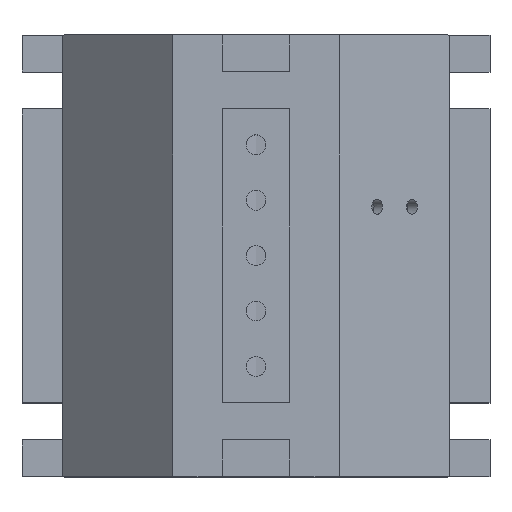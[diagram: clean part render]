
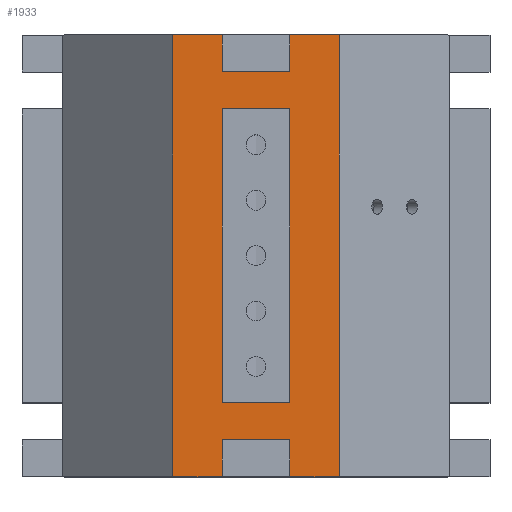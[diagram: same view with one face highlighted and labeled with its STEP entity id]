
A CAD part, top view. The second image highlights one B-rep face of the part: STEP entity #1933.
In plain terms, the highlighted planar face has unit normal (0, 0, 1).
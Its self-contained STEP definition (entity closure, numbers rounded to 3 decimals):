
#132=FACE_BOUND('',#411,.T.);
#200=PLANE('',#2077);
#287=FACE_OUTER_BOUND('',#410,.T.);
#410=EDGE_LOOP('',(#1705,#1706,#1707,#1708,#1709,#1710,#1711,#1712,#1713,
#1714,#1715,#1716));
#411=EDGE_LOOP('',(#1717,#1718,#1719,#1720));
#589=LINE('',#3433,#782);
#593=LINE('',#3442,#786);
#597=LINE('',#3451,#790);
#601=LINE('',#3460,#794);
#607=LINE('',#3471,#800);
#609=LINE('',#3474,#802);
#610=LINE('',#3477,#803);
#613=LINE('',#3483,#806);
#616=LINE('',#3488,#809);
#620=LINE('',#3495,#813);
#646=LINE('',#3548,#839);
#647=LINE('',#3551,#840);
#648=LINE('',#3553,#841);
#649=LINE('',#3554,#842);
#650=LINE('',#3555,#843);
#651=LINE('',#3556,#844);
#782=VECTOR('',#2380,10.);
#786=VECTOR('',#2386,10.);
#790=VECTOR('',#2392,10.);
#794=VECTOR('',#2398,10.);
#800=VECTOR('',#2406,10.);
#802=VECTOR('',#2410,10.);
#803=VECTOR('',#2413,10.);
#806=VECTOR('',#2418,10.);
#809=VECTOR('',#2423,10.);
#813=VECTOR('',#2429,10.);
#839=VECTOR('',#2481,10.);
#840=VECTOR('',#2484,10.);
#841=VECTOR('',#2485,10.);
#842=VECTOR('',#2486,10.);
#843=VECTOR('',#2487,10.);
#844=VECTOR('',#2488,10.);
#1020=VERTEX_POINT('',#3431);
#1021=VERTEX_POINT('',#3432);
#1024=VERTEX_POINT('',#3440);
#1025=VERTEX_POINT('',#3441);
#1028=VERTEX_POINT('',#3449);
#1029=VERTEX_POINT('',#3450);
#1032=VERTEX_POINT('',#3458);
#1033=VERTEX_POINT('',#3459);
#1037=VERTEX_POINT('',#3469);
#1038=VERTEX_POINT('',#3476);
#1040=VERTEX_POINT('',#3482);
#1043=VERTEX_POINT('',#3493);
#1056=VERTEX_POINT('',#3544);
#1057=VERTEX_POINT('',#3546);
#1058=VERTEX_POINT('',#3550);
#1059=VERTEX_POINT('',#3552);
#1240=EDGE_CURVE('',#1020,#1021,#589,.T.);
#1244=EDGE_CURVE('',#1024,#1025,#593,.T.);
#1248=EDGE_CURVE('',#1028,#1029,#597,.T.);
#1252=EDGE_CURVE('',#1032,#1033,#601,.T.);
#1258=EDGE_CURVE('',#1037,#1032,#607,.T.);
#1260=EDGE_CURVE('',#1029,#1020,#609,.T.);
#1261=EDGE_CURVE('',#1025,#1038,#610,.T.);
#1264=EDGE_CURVE('',#1040,#1033,#613,.T.);
#1267=EDGE_CURVE('',#1028,#1021,#616,.T.);
#1271=EDGE_CURVE('',#1024,#1043,#620,.T.);
#1299=EDGE_CURVE('',#1056,#1057,#646,.T.);
#1300=EDGE_CURVE('',#1058,#1043,#647,.T.);
#1301=EDGE_CURVE('',#1059,#1058,#648,.T.);
#1302=EDGE_CURVE('',#1059,#1040,#649,.T.);
#1303=EDGE_CURVE('',#1037,#1056,#650,.T.);
#1304=EDGE_CURVE('',#1038,#1057,#651,.T.);
#1705=ORIENTED_EDGE('',*,*,#1271,.T.);
#1706=ORIENTED_EDGE('',*,*,#1300,.F.);
#1707=ORIENTED_EDGE('',*,*,#1301,.F.);
#1708=ORIENTED_EDGE('',*,*,#1302,.T.);
#1709=ORIENTED_EDGE('',*,*,#1264,.T.);
#1710=ORIENTED_EDGE('',*,*,#1252,.F.);
#1711=ORIENTED_EDGE('',*,*,#1258,.F.);
#1712=ORIENTED_EDGE('',*,*,#1303,.T.);
#1713=ORIENTED_EDGE('',*,*,#1299,.T.);
#1714=ORIENTED_EDGE('',*,*,#1304,.F.);
#1715=ORIENTED_EDGE('',*,*,#1261,.F.);
#1716=ORIENTED_EDGE('',*,*,#1244,.F.);
#1717=ORIENTED_EDGE('',*,*,#1240,.F.);
#1718=ORIENTED_EDGE('',*,*,#1260,.F.);
#1719=ORIENTED_EDGE('',*,*,#1248,.F.);
#1720=ORIENTED_EDGE('',*,*,#1267,.T.);
#1933=ADVANCED_FACE('',(#287,#132),#200,.T.);
#2077=AXIS2_PLACEMENT_3D('',#3549,#2482,#2483);
#2380=DIRECTION('',(-1.,0.,0.));
#2386=DIRECTION('',(1.,0.,0.));
#2392=DIRECTION('',(1.,0.,0.));
#2398=DIRECTION('',(-1.,0.,0.));
#2406=DIRECTION('',(0.,1.,0.));
#2410=DIRECTION('',(0.,1.,0.));
#2413=DIRECTION('',(0.,1.,0.));
#2418=DIRECTION('',(0.,1.,0.));
#2423=DIRECTION('',(0.,1.,0.));
#2429=DIRECTION('',(0.,1.,0.));
#2481=DIRECTION('',(0.,1.,0.));
#2482=DIRECTION('center_axis',(0.,0.,1.));
#2483=DIRECTION('ref_axis',(1.,0.,0.));
#2484=DIRECTION('',(1.,0.,0.));
#2485=DIRECTION('',(0.,1.,0.));
#2486=DIRECTION('',(1.,0.,0.));
#2487=DIRECTION('',(1.,0.,0.));
#2488=DIRECTION('',(1.,0.,0.));
#3431=CARTESIAN_POINT('',(5.5,59.73,31.5));
#3432=CARTESIAN_POINT('',(-5.5,59.73,31.5));
#3433=CARTESIAN_POINT('',(2.75,59.73,31.5));
#3440=CARTESIAN_POINT('',(-5.5,65.73,31.5));
#3441=CARTESIAN_POINT('',(5.5,65.73,31.5));
#3442=CARTESIAN_POINT('',(-2.75,65.73,31.5));
#3449=CARTESIAN_POINT('',(-5.5,12.,31.5));
#3450=CARTESIAN_POINT('',(5.5,12.,31.5));
#3451=CARTESIAN_POINT('',(-2.75,12.,31.5));
#3458=CARTESIAN_POINT('',(5.5,6.,31.5));
#3459=CARTESIAN_POINT('',(-5.5,6.,31.5));
#3460=CARTESIAN_POINT('',(2.75,6.,31.5));
#3469=CARTESIAN_POINT('',(5.5,0.,31.5));
#3471=CARTESIAN_POINT('',(5.5,0.,31.5));
#3474=CARTESIAN_POINT('',(5.5,0.,31.5));
#3476=CARTESIAN_POINT('',(5.5,71.73,31.5));
#3477=CARTESIAN_POINT('',(5.5,0.,31.5));
#3482=CARTESIAN_POINT('',(-5.5,0.,31.5));
#3483=CARTESIAN_POINT('',(-5.5,0.,31.5));
#3488=CARTESIAN_POINT('',(-5.5,0.,31.5));
#3493=CARTESIAN_POINT('',(-5.5,71.73,31.5));
#3495=CARTESIAN_POINT('',(-5.5,0.,31.5));
#3544=CARTESIAN_POINT('',(13.5,0.,31.5));
#3546=CARTESIAN_POINT('',(13.5,71.73,31.5));
#3548=CARTESIAN_POINT('',(13.5,0.,31.5));
#3549=CARTESIAN_POINT('Origin',(5.5,0.,31.5));
#3550=CARTESIAN_POINT('',(-13.5,71.73,31.5));
#3551=CARTESIAN_POINT('',(-13.5,71.73,31.5));
#3552=CARTESIAN_POINT('',(-13.5,0.,31.5));
#3553=CARTESIAN_POINT('',(-13.5,0.,31.5));
#3554=CARTESIAN_POINT('',(-13.5,0.,31.5));
#3555=CARTESIAN_POINT('',(5.5,0.,31.5));
#3556=CARTESIAN_POINT('',(5.5,71.73,31.5));
